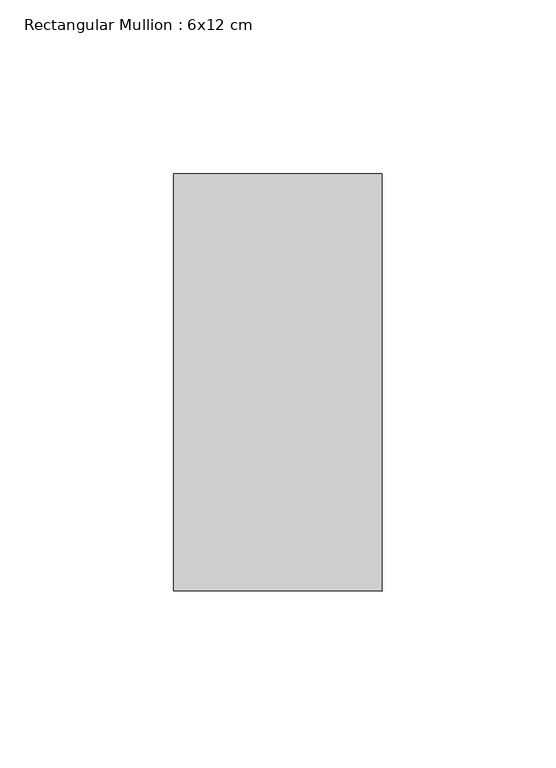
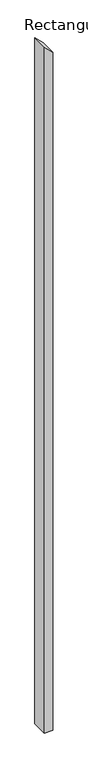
"""IFC4 building model written with IfcOpenShell, lengths in millimetres: member geometry, Rectangular Mullion : 6x12 cm."""

from ifc_helpers import new_model, si_unit, frame, origin, place, context, project, spatial, polyline, outline, extrude, source, transform, mapped, element, save


def rectangular_mullion_6x12_cm_18f9644b(model_context):
    return source(origin(), model_context, "Body", "SweptSolid", [
        extrude(outline(polyline([(-114.7535627, 30.0), (-54.8358015, -30.0), (-5338.2730736, -30.0), (-5338.2730736, 30.0), (-114.7535627, 30.0)])), frame((0.0, 85.0, 0.0), z_axis=(0.0, 1.0, 0.0), x_axis=(0.0, 0.0, 1.0)), (0.0, 0.0, 1.0), 120.0),
    ])


if __name__ == "__main__":
    model = new_model("IFC4")
    model_context = context("Model", 3, world=origin())
    ifc_project = project(units=[si_unit("LENGTHUNIT", "METRE", prefix="MILLI")], contexts=[model_context])
    site = spatial("IfcSite", under=ifc_project)
    building = spatial("IfcBuilding", under=site)
    placement = place(None, origin())
    rectangular_mullion_6x12_cm_shape = rectangular_mullion_6x12_cm_18f9644b(model_context)
    element("IfcMember", 1, ObjectType="Rectangular Mullion : 6x12 cm", at=placement, inside=building, context=model_context, shape_type="MappedRepresentation", body=[
        mapped(rectangular_mullion_6x12_cm_shape, transform((0.0, 0.0, 0.0), x_axis=(1.0, 0.0, 0.0), y_axis=(0.0, 1.0, 0.0), z_axis=(0.0, 0.0, 1.0))),
    ])
    save(model, "model.ifc")
